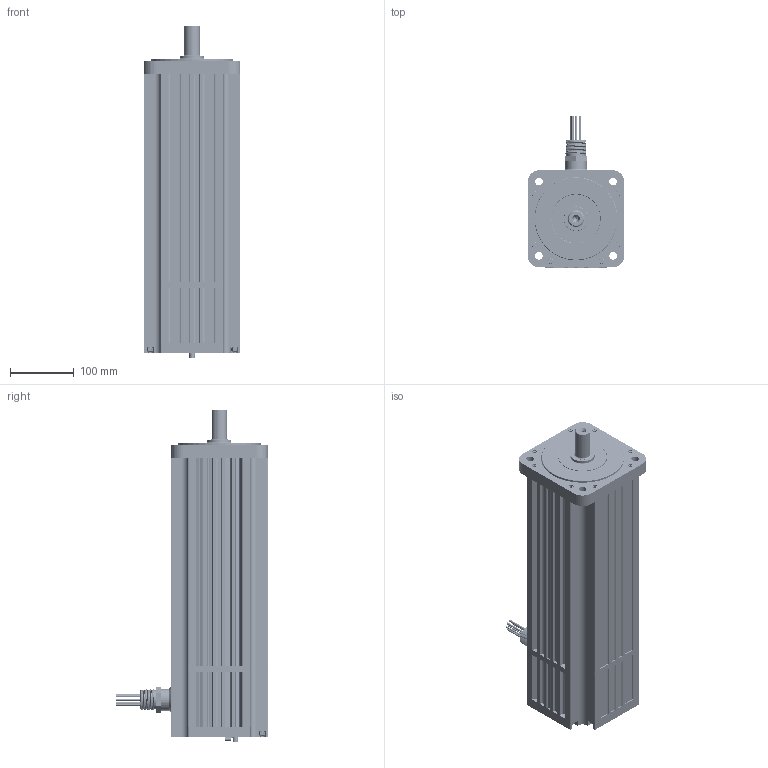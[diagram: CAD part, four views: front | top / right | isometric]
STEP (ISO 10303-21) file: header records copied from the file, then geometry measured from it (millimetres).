
FILE_DESCRIPTION (( 'STEP AP203' ), '1' );
FILE_NAME ('072802A.step', '2020-08-07T13:45:08', ( '' ), ( '' ), 'SwSTEP 2.0', 'SolidWorks 2019', '' );
FILE_SCHEMA (( 'CONFIG_CONTROL_DESIGN' ));
Length unit declared in the file: inch
Products named in the file (1): 072802A
Bounding box: 152.4 x 238 x 521.69 mm (x, y, z)
Volume: 7225069 mm3; surface area: 1435001.2 mm2
Topology: 141 solids, 141 shells, 5191 faces, 13378 edges, 8561 vertices
Faces by surface type: cylinder 2308, plane 2139, cone 403, torus 203, bspline 138
Entity records: 173837 total; most frequent: CARTESIAN_POINT 45515, DIRECTION 27457, ORIENTED_EDGE 26588, EDGE_CURVE 13294, AXIS2_PLACEMENT_3D 10170, VERTEX_POINT 8561, LINE 7117, VECTOR 7117
